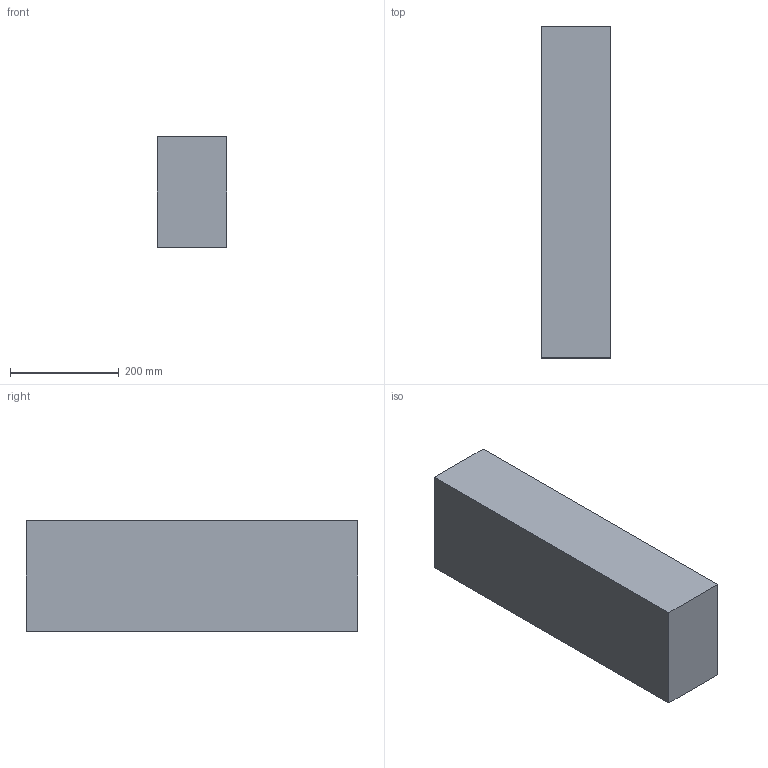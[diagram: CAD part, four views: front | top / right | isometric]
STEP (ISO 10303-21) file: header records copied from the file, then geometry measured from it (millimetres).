
FILE_DESCRIPTION(/* description */ (''),/* implementation_level */ '2;1');
FILE_NAME(/* name */ '5x8x24',/* time_stamp */ '2024-09-20T11:46:03-05:00',/* author */ (''),/* organization */ (''),/* preprocessor_version */ 'ST-DEVELOPER v19.2',/* originating_system */ 'Rhino 8.5',/* authorisation */ '');
FILE_SCHEMA (('CONFIG_CONTROL_DESIGN'));
Length unit declared in the file: inch
Products named in the file (1): Document
Bounding box: 127 x 609.6 x 203.2 mm (x, y, z)
Volume: 15731581.4 mm3; surface area: 454192.6 mm2
Topology: 1 solids, 1 shells, 6 faces, 12 edges, 8 vertices
Faces by surface type: plane 6
Entity records: 226 total; most frequent: CARTESIAN_POINT 40, ORIENTED_EDGE 24, EDGE_CURVE 12, B_SPLINE_CURVE_WITH_KNOTS 12, DIRECTION 10, VERTEX_POINT 8, AXIS2_PLACEMENT_3D 8, ORGANIZATION 7
